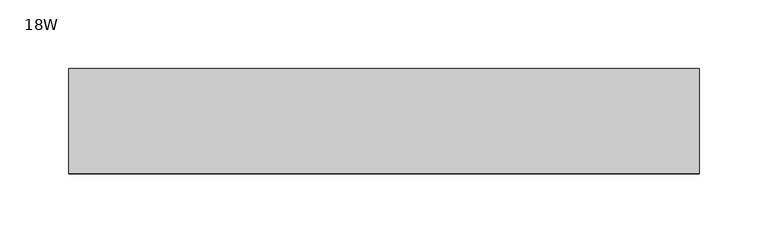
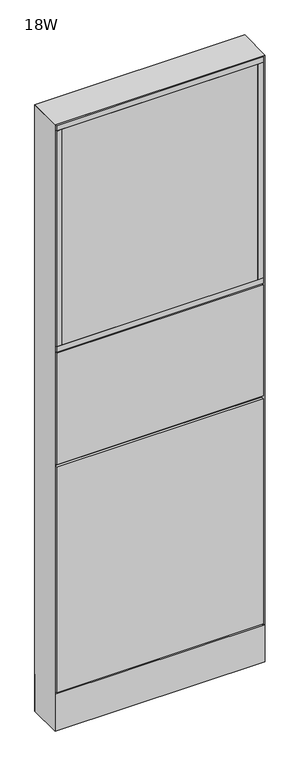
"""IFC4 building model written with IfcOpenShell, lengths in millimetres: furniture geometry, Steelcase - Montage - Frame - 55H - Enhanced Monolithic - Base Cavity : 18W."""

from ifc_helpers import new_model, si_unit, point, frame, frame_2d, origin, origin_with_axes, place, context, project, spatial, polyline, circle_curve, trimmed, segment, composite_curve, outline, extrude, faceted_brep, source, transform, mapped, element, save


def furniture_18w_73e290f0(model_context):
    return source(origin(), model_context, "Body", "SolidModel", [
        extrude(outline(polyline([(15.875, 38.1000015), (441.325, 38.1000015), (441.325, 31.7500017), (15.875, 31.7500017), (15.875, 38.1000015)])), frame((0.0, 0.0, 887.4125), z_axis=(0.0, 0.0, 1.0), x_axis=(1.0, 0.0, 0.0)), (0.0, 0.0, 1.0), 495.3),
        extrude(outline(polyline([(15.875, -31.7499985), (441.325, -31.7499985), (441.325, -38.1000015), (15.875, -38.1000015), (15.875, -31.7499985)])), frame((0.0, 0.0, 887.4125), z_axis=(0.0, 0.0, 1.0), x_axis=(1.0, 0.0, 0.0)), (0.0, 0.0, 1.0), 495.3),
        extrude(outline(polyline([(3.175, -38.1000015), (3.175, 38.1000015), (15.875, 38.1000015), (15.875, -38.1000015), (3.175, -38.1000015)])), frame((0.0, 0.0, 887.4125), z_axis=(0.0, 0.0, 1.0), x_axis=(1.0, 0.0, 0.0)), (0.0, 0.0, 1.0), 495.3),
        extrude(outline(polyline([(441.325, -38.1000015), (441.325, 38.1000015), (454.025, 38.1000015), (454.025, -38.1000015), (441.325, -38.1000015)])), frame((0.0, 0.0, 887.4125), z_axis=(0.0, 0.0, 1.0), x_axis=(1.0, 0.0, 0.0)), (0.0, 0.0, 1.0), 495.3),
        extrude(outline(polyline([(3.175, -38.1000015), (3.175, 38.1000015), (454.025, 38.1000015), (454.025, -38.1000015), (3.175, -38.1000015)])), frame((0.0, 0.0, 874.7125), z_axis=(0.0, 0.0, 1.0), x_axis=(1.0, 0.0, 0.0)), (0.0, 0.0, 1.0), 12.7),
        extrude(outline(polyline([(3.175, -38.1000015), (3.175, 38.1000015), (454.025, 38.1000015), (454.025, -38.1000015), (3.175, -38.1000015)])), frame((0.0, 0.0, 1382.7125), z_axis=(0.0, 0.0, 1.0), x_axis=(1.0, 0.0, 0.0)), (0.0, 0.0, 1.0), 12.7),
        extrude(outline(polyline([(454.025, 31.7500194), (3.175, 31.7500194), (3.175, 38.1000194), (454.025, 38.1000194), (454.025, 31.7500194)])), frame((0.0, 0.0, 615.95), z_axis=(0.0, 0.0, 1.0), x_axis=(1.0, 0.0, 0.0)), (0.0, 0.0, 1.0), 255.5875),
        extrude(outline(polyline([(454.025, 31.7500194), (3.175, 31.7500194), (3.175, 38.1000194), (454.025, 38.1000194), (454.025, 31.7500194)])), frame((0.0, 0.0, 92.075), z_axis=(0.0, 0.0, 1.0), x_axis=(1.0, 0.0, 0.0)), (0.0, 0.0, 1.0), 517.525),
        extrude(outline(polyline([(441.325, 38.1000015), (441.325, 31.7500017), (15.875, 31.7500017), (15.875, 38.1000015), (441.325, 38.1000015)])), frame((0.0, 0.0, 887.4125), z_axis=(0.0, 0.0, 1.0), x_axis=(1.0, 0.0, 0.0)), (0.0, 0.0, 1.0), 495.3),
        extrude(outline(polyline([(441.325, -31.7499985), (441.325, -38.1000015), (15.875, -38.1000015), (15.875, -31.7499985), (441.325, -31.7499985)])), frame((0.0, 0.0, 887.4125), z_axis=(0.0, 0.0, 1.0), x_axis=(1.0, 0.0, 0.0)), (0.0, 0.0, 1.0), 495.3),
        extrude(outline(polyline([(454.025, -38.1000015), (441.325, -38.1000015), (441.325, 38.1000015), (454.025, 38.1000015), (454.025, -38.1000015)])), frame((0.0, 0.0, 887.4125), z_axis=(0.0, 0.0, 1.0), x_axis=(1.0, 0.0, 0.0)), (0.0, 0.0, 1.0), 495.3),
        extrude(outline(polyline([(15.875, -38.1000015), (3.175, -38.1000015), (3.175, 38.1000015), (15.875, 38.1000015), (15.875, -38.1000015)])), frame((0.0, 0.0, 887.4125), z_axis=(0.0, 0.0, 1.0), x_axis=(1.0, 0.0, 0.0)), (0.0, 0.0, 1.0), 495.3),
        extrude(outline(polyline([(454.025, -38.1000015), (3.175, -38.1000015), (3.175, 38.1000015), (454.025, 38.1000015), (454.025, -38.1000015)])), frame((0.0, 0.0, 874.7125), z_axis=(0.0, 0.0, 1.0), x_axis=(1.0, 0.0, 0.0)), (0.0, 0.0, 1.0), 12.7),
        extrude(outline(polyline([(454.025, -38.1000015), (3.175, -38.1000015), (3.175, 38.1000015), (454.025, 38.1000015), (454.025, -38.1000015)])), frame((0.0, 0.0, 1382.7125), z_axis=(0.0, 0.0, 1.0), x_axis=(1.0, 0.0, 0.0)), (0.0, 0.0, 1.0), 12.7),
        extrude(outline(polyline([(3.175, 31.7500194), (3.175, 38.1000194), (454.025, 38.1000194), (454.025, 31.7500194), (3.175, 31.7500194)])), frame((0.0, 0.0, 615.95), z_axis=(0.0, 0.0, 1.0), x_axis=(1.0, 0.0, 0.0)), (0.0, 0.0, 1.0), 255.5875),
        extrude(outline(polyline([(3.175, 31.7500194), (3.175, 38.1000194), (454.025, 38.1000194), (454.025, 31.7500194), (3.175, 31.7500194)])), frame((0.0, 0.0, 92.075), z_axis=(0.0, 0.0, 1.0), x_axis=(1.0, 0.0, 0.0)), (0.0, 0.0, 1.0), 517.525),
        extrude(outline(polyline([(441.325, -38.1000015), (15.875, -38.1000015), (15.875, -31.7500017), (441.325, -31.7500017), (441.325, -38.1000015)])), frame((0.0, 0.0, 887.4125), z_axis=(0.0, 0.0, 1.0), x_axis=(1.0, 0.0, 0.0)), (0.0, 0.0, 1.0), 495.3),
        extrude(outline(polyline([(441.325, 31.7499985), (15.875, 31.7499985), (15.875, 38.1000015), (441.325, 38.1000015), (441.325, 31.7499985)])), frame((0.0, 0.0, 887.4125), z_axis=(0.0, 0.0, 1.0), x_axis=(1.0, 0.0, 0.0)), (0.0, 0.0, 1.0), 495.3),
        extrude(outline(polyline([(454.025, 38.1000015), (454.025, -38.1000015), (441.325, -38.1000015), (441.325, 38.1000015), (454.025, 38.1000015)])), frame((0.0, 0.0, 887.4125), z_axis=(0.0, 0.0, 1.0), x_axis=(1.0, 0.0, 0.0)), (0.0, 0.0, 1.0), 495.3),
        extrude(outline(polyline([(15.875, 38.1000015), (15.875, -38.1000015), (3.175, -38.1000015), (3.175, 38.1000015), (15.875, 38.1000015)])), frame((0.0, 0.0, 887.4125), z_axis=(0.0, 0.0, 1.0), x_axis=(1.0, 0.0, 0.0)), (0.0, 0.0, 1.0), 495.3),
        extrude(outline(polyline([(454.025, 38.1000015), (454.025, -38.1000015), (3.175, -38.1000015), (3.175, 38.1000015), (454.025, 38.1000015)])), frame((0.0, 0.0, 874.7125), z_axis=(0.0, 0.0, 1.0), x_axis=(1.0, 0.0, 0.0)), (0.0, 0.0, 1.0), 12.7),
        extrude(outline(polyline([(454.025, 38.1000015), (454.025, -38.1000015), (3.175, -38.1000015), (3.175, 38.1000015), (454.025, 38.1000015)])), frame((0.0, 0.0, 1382.7125), z_axis=(0.0, 0.0, 1.0), x_axis=(1.0, 0.0, 0.0)), (0.0, 0.0, 1.0), 12.7),
        extrude(outline(polyline([(3.175, -31.7500194), (454.025, -31.7500194), (454.025, -38.1000194), (3.175, -38.1000194), (3.175, -31.7500194)])), frame((0.0, 0.0, 615.95), z_axis=(0.0, 0.0, 1.0), x_axis=(1.0, 0.0, 0.0)), (0.0, 0.0, 1.0), 255.5875),
        extrude(outline(polyline([(3.175, -31.7500194), (454.025, -31.7500194), (454.025, -38.1000194), (3.175, -38.1000194), (3.175, -31.7500194)])), frame((0.0, 0.0, 92.075), z_axis=(0.0, 0.0, 1.0), x_axis=(1.0, 0.0, 0.0)), (0.0, 0.0, 1.0), 517.525),
        extrude(outline(polyline([(6.350003, -31.7499985), (450.849997, -31.7499985), (457.2, -38.1000015), (0.0, -38.1000015), (6.350003, -31.7499985)])), frame((0.0, 0.0, 4.064), z_axis=(0.0, 0.0, 1.0), x_axis=(1.0, 0.0, 0.0)), (0.0, 0.0, 1.0), 84.835997),
        extrude(outline(polyline([(6.3500002, 31.7500017), (0.0, 38.1000015), (457.2, 38.1000015), (450.8500002, 31.7500017), (6.3500002, 31.7500017)])), frame((0.0, 0.0, 4.064), z_axis=(0.0, 0.0, 1.0), x_axis=(1.0, 0.0, 0.0)), (0.0, 0.0, 1.0), 84.835997),
        faceted_brep([(457.2, -38.1000015, 1398.5875), (0.0, -38.1000015, 1398.5875), (6.3500484, -31.749953, 1392.2374516), (450.8499516, -31.749953, 1392.2374516), (6.3500484, 31.749953, 1392.2374516), (450.8499516, 31.749953, 1392.2374516), (0.0, 38.1000015, 1398.5875), (457.2, 38.1000015, 1398.5875)], [[[0, 1, 2, 3]], [[3, 2, 4, 5]], [[6, 7, 5, 4]], [[1, 0, 7, 6]], [[2, 1, 6, 4]], [[0, 3, 5, 7]]]),
        extrude(outline(composite_curve([segment(trimmed(circle_curve(frame_2d((44.45, 0.0)), 15.24), [point((29.21, 0.0))], [point((59.69, 0.0))], False, "CARTESIAN"), True, "CONTINUOUS"), segment(trimmed(circle_curve(frame_2d((44.45, 0.0)), 15.24), [point((59.69, 0.0))], [point((29.21, 0.0))], False, "CARTESIAN"), True, "CONTINUOUS")], self_intersect=False)), origin_with_axes(), (0.0, 0.0, 1.0), 4.064),
        extrude(outline(composite_curve([segment(trimmed(circle_curve(frame_2d((412.75, 0.0)), 15.24), [point((397.51, 0.0))], [point((427.99, 0.0))], False, "CARTESIAN"), True, "CONTINUOUS"), segment(trimmed(circle_curve(frame_2d((412.75, 0.0)), 15.24), [point((427.99, 0.0))], [point((397.51, 0.0))], False, "CARTESIAN"), True, "CONTINUOUS")], self_intersect=False)), origin_with_axes(), (0.0, 0.0, 1.0), 4.064),
        faceted_brep([(457.2, -38.1000106, 4.064), (457.2, 38.1000015, 4.064), (457.2, 38.1000015, 1398.5875), (457.2, -38.1000106, 1398.5874637), (0.0, 38.1000015, 4.064), (0.0, -38.1000015, 4.064), (0.0, -38.1000015, 1398.5875), (0.0, 38.1000015, 1398.5875), (450.8499879, 31.7500017, 606.425), (6.35, 31.7500017, 606.425), (6.3499998, 31.7500017, 619.125), (450.8499879, 31.7500017, 619.125), (6.35, -31.7499985, 619.125), (450.8499879, -31.7499985, 619.125), (6.350003, -31.7499985, 606.425), (450.8499879, -31.7499985, 606.425), (6.35, 31.7500015, 4.064), (6.35, -31.7500015, 4.064), (450.8499879, 31.7499894, 4.064), (450.8499879, -31.7499985, 4.064), (6.35, 31.7500015, 1392.2375), (6.35, -31.7500015, 1392.2375), (450.8499879, -31.7499985, 1392.2374516), (450.8499879, 31.7499895, 1392.2374516)], [[[0, 1, 2, 3]], [[4, 5, 6, 7]], [[8, 9, 10, 11]], [[11, 10, 12, 13]], [[13, 12, 14, 15]], [[9, 8, 15, 14]], [[16, 17, 5, 4]], [[18, 1, 0, 19]], [[16, 4, 7, 20, 10, 9]], [[5, 17, 14, 12, 21, 6]], [[17, 16, 9, 14]], [[12, 10, 20, 21]], [[18, 19, 15, 8]], [[11, 13, 22, 23]], [[19, 0, 3, 22, 13, 15]], [[1, 18, 8, 11, 23, 2]], [[7, 6, 21, 20]], [[3, 2, 23, 22]]]),
    ])


if __name__ == "__main__":
    model = new_model("IFC4")
    model_context = context("Model", 3, world=origin())
    ifc_project = project(units=[si_unit("LENGTHUNIT", "METRE", prefix="MILLI")], contexts=[model_context])
    site = spatial("IfcSite", under=ifc_project)
    building = spatial("IfcBuilding", under=site)
    placement = place(None, origin())
    furniture_18w_shape = furniture_18w_73e290f0(model_context)
    element("IfcFurniture", 1, ObjectType="Steelcase - Montage - Frame - 55H - Enhanced Monolithic - Base Cavity : 18W", at=placement, inside=building, context=model_context, shape_type="MappedRepresentation", body=[
        mapped(furniture_18w_shape, transform((0.0, 0.0, 0.0), x_axis=(1.0, 0.0, 0.0), y_axis=(0.0, 1.0, 0.0), z_axis=(0.0, 0.0, 1.0))),
    ])
    save(model, "model.ifc")
